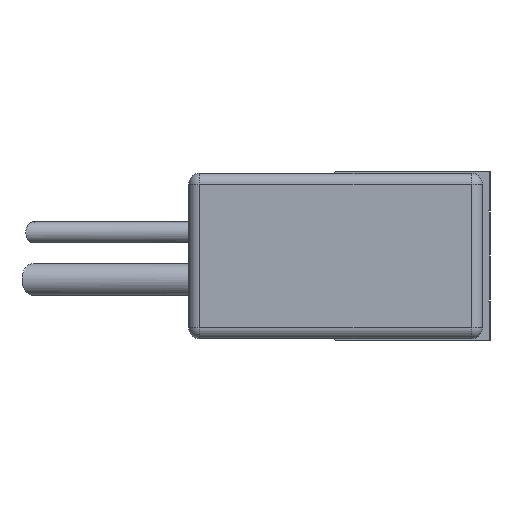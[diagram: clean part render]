
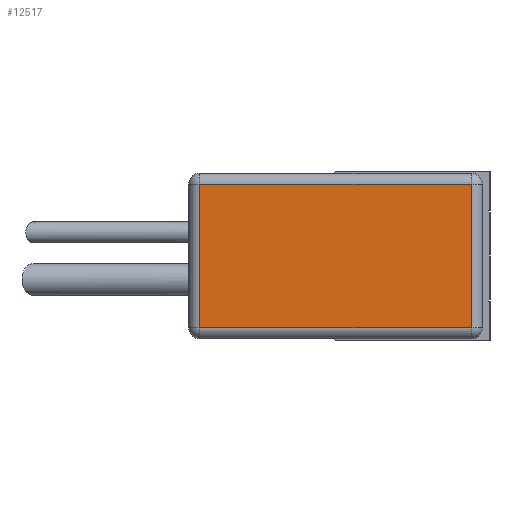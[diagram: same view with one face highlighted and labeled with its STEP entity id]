
A CAD part, left-side view. The second image highlights one B-rep face of the part: STEP entity #12517.
In plain terms, the highlighted planar face has unit normal (-1, 0, 0) as drawn and (0, 0, -1) by its records, which use the part's own axes.
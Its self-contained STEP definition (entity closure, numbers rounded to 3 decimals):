
#782=PLANE('',#20485);
#2360=VERTEX_POINT('',#19268);
#2361=VERTEX_POINT('',#19272);
#2365=VERTEX_POINT('',#19280);
#2370=VERTEX_POINT('',#19293);
#3696=VECTOR('',#15602,1.);
#3698=VECTOR('',#15606,1.);
#3700=VECTOR('',#15610,1.);
#3703=VECTOR('',#15617,1.);
#5013=LINE('',#19305,#3696);
#5015=LINE('',#19308,#3698);
#5017=LINE('',#19311,#3700);
#5020=LINE('',#19316,#3703);
#6726=EDGE_CURVE('',#2361,#2370,#5013,.T.);
#6728=EDGE_CURVE('',#2370,#2365,#5015,.T.);
#6730=EDGE_CURVE('',#2365,#2360,#5017,.T.);
#6733=EDGE_CURVE('',#2360,#2361,#5020,.T.);
#10167=ORIENTED_EDGE('',*,*,#6726,.F.);
#10168=ORIENTED_EDGE('',*,*,#6733,.F.);
#10169=ORIENTED_EDGE('',*,*,#6730,.F.);
#10170=ORIENTED_EDGE('',*,*,#6728,.F.);
#11023=EDGE_LOOP('',(#10167,#10168,#10169,#10170));
#11814=FACE_BOUND('',#11023,.T.);
#12517=ADVANCED_FACE('',(#11814),#782,.T.);
#15602=DIRECTION('',(0.,-1.,0.));
#15606=DIRECTION('',(1.,0.,0.));
#15610=DIRECTION('',(0.,1.,0.));
#15617=DIRECTION('',(-1.,0.,0.));
#15639=DIRECTION('',(0.,0.,-1.));
#19268=CARTESIAN_POINT('',(1.9,5.2,-9.1));
#19272=CARTESIAN_POINT('',(-1.9,5.2,-9.1));
#19280=CARTESIAN_POINT('',(1.9,-2.,-9.1));
#19293=CARTESIAN_POINT('',(-1.9,-2.,-9.1));
#19305=CARTESIAN_POINT('',(-1.9,3.125,-9.1));
#19308=CARTESIAN_POINT('',(-2.,-2.,-9.1));
#19311=CARTESIAN_POINT('',(1.9,0.1,-9.1));
#19316=CARTESIAN_POINT('',(-1.1,5.2,-9.1));
#19343=CARTESIAN_POINT('',(-2.2,2.1,-9.1));
#20485=AXIS2_PLACEMENT_3D('',#19343,#15639,$);
